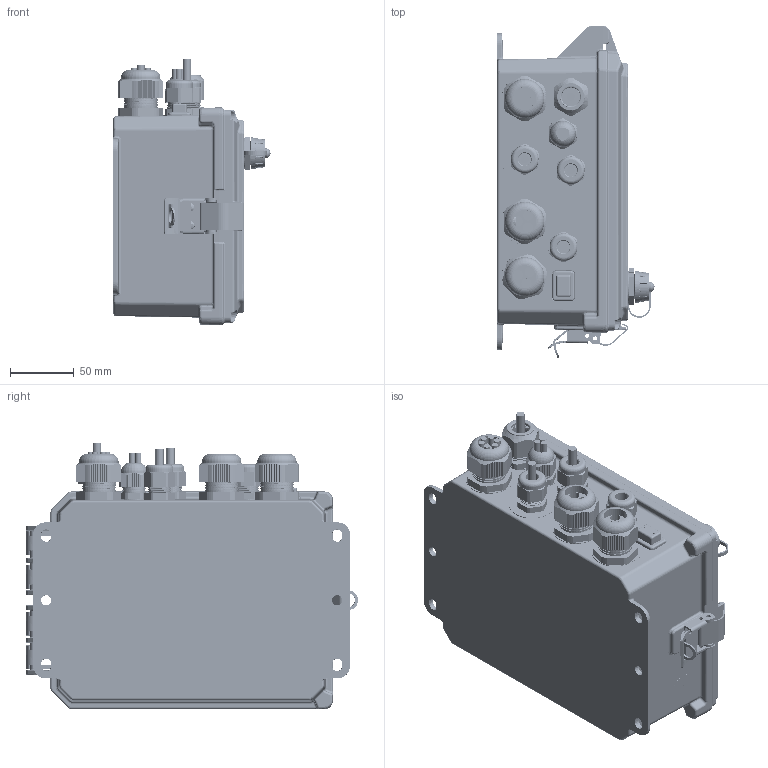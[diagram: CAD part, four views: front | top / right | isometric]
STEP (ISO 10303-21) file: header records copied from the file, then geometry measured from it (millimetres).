
FILE_DESCRIPTION (( 'STEP AP203' ), '1' );
FILE_NAME ('W600 Shell without Pigtails.STEP', '2018-03-09T19:53:29', ( '' ), ( '' ), 'SwSTEP 2.0', 'SolidWorks 2016', '' );
FILE_SCHEMA (( 'CONFIG_CONTROL_DESIGN' ));
Length unit declared in the file: millimetre
Products named in the file (39): 191576-INTERGRA; 103809; 103025; 9912575-82-10_90631A007; ISA0022; 103004; 103946; W600 Shell without Pigtails; 102903_102903; 9912571-82-10_95345A043; 191619-01; PCG-11 nut; ISA0011; ISA0017; ISA0016; 102444; 102906; 191584; 102407; 103910; 103832; 1032_375H_insert; 103911; 191577-INTEGRA; 103807; ISA0019_Plug; ISA0021; 103835; 103938; 103803; ISA0018_3 Wire; 100101_USB; 103867; ISA0020; Nut for M20; 102907; ISA0014; 9912576-82-10; 9912562-82-10
Assembly tree (58 placements, depth 3):
  W600 Shell without Pigtails
    ISA0011
      191576-INTERGRA
      1032_375H_insert  x2
      9912562-82-10
      9912571-82-10_95345A043  x2
      9912575-82-10_90631A007  x2
      102444
      9912576-82-10  x2
    191577-INTEGRA
    191584
    ISA0018_3 Wire  x2
      102907
      102903_102903
      102906
    ISA0017
      103938
      PCG-11 nut
    ISA0020
      102907
      103025  x6
      103004
      102903_102903
    ISA0019_Plug  x2
      103938
      102407
      PCG-11 nut
    ISA0021
      103946
      102407
      Nut for M20
    ISA0022
      103809
      103025  x3
      PCG-11 nut
      103807
    103803
    ISA0014
      103867
      191619-01
      100101_USB
      103911
    ISA0016
      103910
      103832
    103835
Bounding box: 123.4 x 260.74 x 209.17 mm (x, y, z)
Volume: 832334.7 mm3; surface area: 681936.4 mm2
Topology: 67 solids, 329 shells, 11081 faces, 29825 edges, 19464 vertices
Faces by surface type: plane 6876, cylinder 2104, bspline 1287, cone 577, torus 206, sphere 31
Entity records: 437712 total; most frequent: CARTESIAN_POINT 212922, ORIENTED_EDGE 50390, DIRECTION 36977, EDGE_CURVE 25835, VERTEX_POINT 16871, LINE 14735, VECTOR 14735, AXIS2_PLACEMENT_3D 11121
